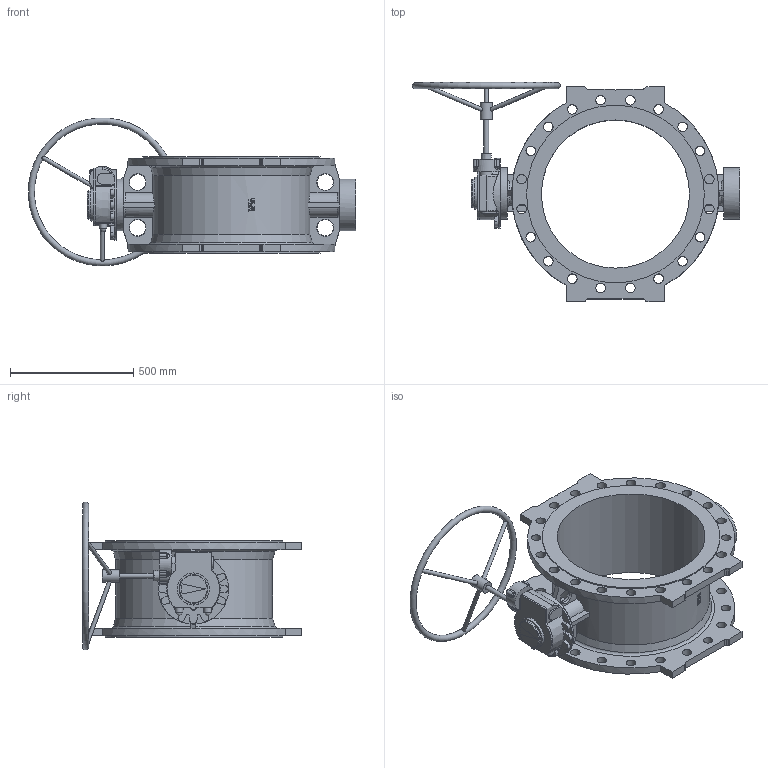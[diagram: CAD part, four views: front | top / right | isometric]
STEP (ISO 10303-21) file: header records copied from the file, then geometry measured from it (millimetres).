
FILE_DESCRIPTION (( 'STEP AP203' ), '1' );
FILE_NAME ('O_756_1_DN600_1XX00_AA1_step.step', '2016-03-04T11:56:10', ( 'Windows User' ), ( 'AVK' ), 'SwSTEP 2.0', 'SolidWorks 2012', '' );
FILE_SCHEMA (( 'CONFIG_CONTROL_DESIGN' ));
Length unit declared in the file: millimetre
Products named in the file (1): O_756_1_DN600_1XX00_AA1_step
Bounding box: 1325.49 x 887 x 599.11 mm (x, y, z)
Volume: 42367858.5 mm3; surface area: 3392335.7 mm2
Topology: 1 solids, 1 shells, 497 faces, 1446 edges, 963 vertices
Faces by surface type: plane 179, cylinder 136, bspline 133, cone 33, torus 14, sphere 2
Full cylindrical faces by diameter (mm): 16 x3, 20 x1, 30 x2, 39 x40, 50 x1, 116 x1, 210 x2, 600 x1, 720 x2
Entity records: 21226 total; most frequent: CARTESIAN_POINT 9665, ORIENTED_EDGE 2636, DIRECTION 1844, EDGE_CURVE 1318, VERTEX_POINT 913, AXIS2_PLACEMENT_3D 695, EDGE_LOOP 681, FACE_OUTER_BOUND 549
